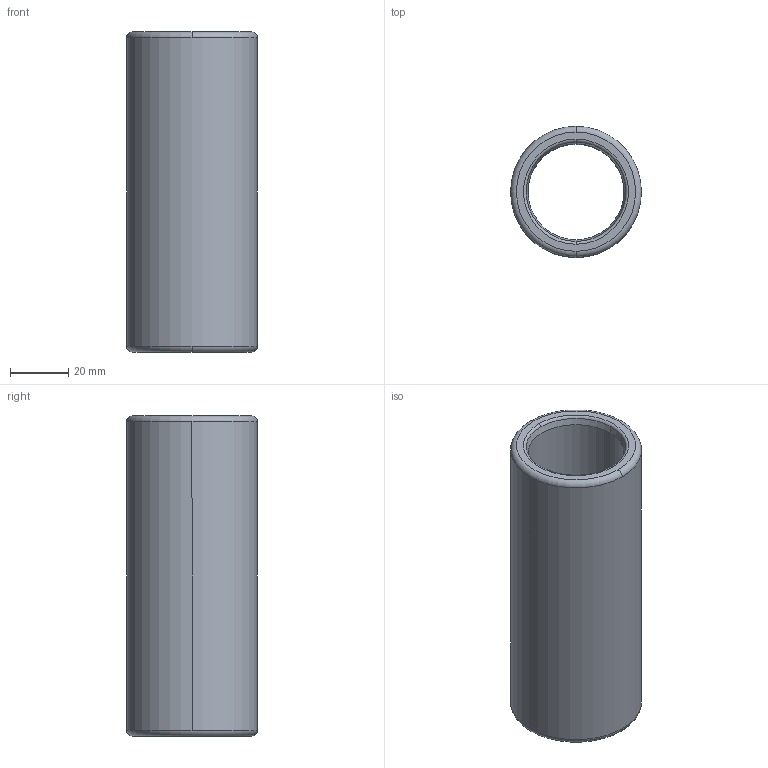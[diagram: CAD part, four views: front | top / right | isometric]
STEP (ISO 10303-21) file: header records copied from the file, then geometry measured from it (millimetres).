
FILE_DESCRIPTION((''),'2;1');
FILE_NAME('B30_025_110.stp','2009-01-12T09:59:57',(''),(''),'Mechanical Desktop 2009','Mechanical Desktop 2009',', , ');
FILE_SCHEMA(('CONFIG_CONTROL_DESIGN'));
Length unit declared in the file: millimetre
Products named in the file (2): Product; blmdl1
Assembly tree (1 placements, depth 2):
  Product
    blmdl1
Bounding box: 44.99 x 44.99 x 110 mm (x, y, z)
Volume: 80454.1 mm3; surface area: 27981.7 mm2
Topology: 1 solids, 1 shells, 18 faces, 48 edges, 32 vertices
Faces by surface type: torus 8, cylinder 4, cone 4, plane 2
Entity records: 705 total; most frequent: DIRECTION 128, CARTESIAN_POINT 100, ORIENTED_EDGE 96, AXIS2_PLACEMENT_3D 60, EDGE_CURVE 48, CIRCLE 40, VERTEX_POINT 32, EDGE_LOOP 20
